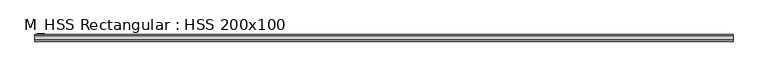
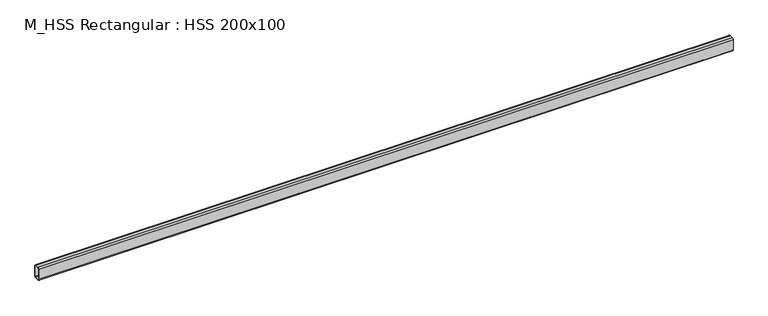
"""IFC4 building model written with IfcOpenShell, lengths in millimetres: beam geometry, M_HSS Rectangular : HSS 200x100."""

from ifc_helpers import new_model, si_unit, point, frame, frame_2d, origin, place, context, project, spatial, polyline, circle_curve, trimmed, segment, composite_curve, outline, extrude, source, transform, mapped, element, save


def m_hss_rectangular_hss_200x100_629e55c8(model_context):
    return source(origin(), model_context, "Body", "SweptSolid", [
        extrude(outline(composite_curve([segment(trimmed(circle_curve(frame_2d((-30.94, 80.94)), 19.06), [point((-50.0, 80.94))], [point((-30.94, 100.0))], False, "CARTESIAN"), True, "CONTINUOUS"), segment(polyline([(-30.94, 100.0), (30.94, 100.0)]), True, "CONTINUOUS"), segment(trimmed(circle_curve(frame_2d((30.94, 80.94)), 19.06), [point((30.94, 100.0))], [point((50.0, 80.94))], False, "CARTESIAN"), True, "CONTINUOUS"), segment(polyline([(50.0, 80.94), (50.0, -80.94)]), True, "CONTINUOUS"), segment(trimmed(circle_curve(frame_2d((30.94, -80.94)), 19.06), [point((50.0, -80.94))], [point((30.94, -100.0))], False, "CARTESIAN"), True, "CONTINUOUS"), segment(polyline([(30.94, -100.0), (-30.94, -100.0)]), True, "CONTINUOUS"), segment(trimmed(circle_curve(frame_2d((-30.94, -80.94)), 19.06), [point((-30.94, -100.0))], [point((-50.0, -80.94))], False, "CARTESIAN"), True, "CONTINUOUS"), segment(polyline([(-50.0, -80.94), (-50.0, 80.94)]), True, "CONTINUOUS")], self_intersect=False), holes=[composite_curve([segment(polyline([(30.94, 90.47), (-30.94, 90.47)]), True, "CONTINUOUS"), segment(trimmed(circle_curve(frame_2d((-30.94, 80.94)), 9.53), [point((-30.94, 90.47))], [point((-40.47, 80.94))], True, "CARTESIAN"), True, "CONTINUOUS"), segment(polyline([(-40.47, 80.94), (-40.47, -80.94)]), True, "CONTINUOUS"), segment(trimmed(circle_curve(frame_2d((-30.94, -80.94)), 9.53), [point((-40.47, -80.94))], [point((-30.94, -90.47))], True, "CARTESIAN"), True, "CONTINUOUS"), segment(polyline([(-30.94, -90.47), (30.94, -90.47)]), True, "CONTINUOUS"), segment(trimmed(circle_curve(frame_2d((30.94, -80.94)), 9.53), [point((30.94, -90.47))], [point((40.47, -80.94))], True, "CARTESIAN"), True, "CONTINUOUS"), segment(polyline([(40.47, -80.94), (40.47, 80.94)]), True, "CONTINUOUS"), segment(trimmed(circle_curve(frame_2d((30.94, 80.94)), 9.53), [point((40.47, 80.94))], [point((30.94, 90.47))], True, "CARTESIAN"), True, "CONTINUOUS")], self_intersect=False)]), frame((-5250.3, 0.0, 0.0), z_axis=(1.0, 0.0, 0.0), x_axis=(0.0, 1.0, 0.0)), (0.0, 0.0, 1.0), 10500.2),
    ])


if __name__ == "__main__":
    model = new_model("IFC4")
    model_context = context("Model", 3, world=origin())
    ifc_project = project(units=[si_unit("LENGTHUNIT", "METRE", prefix="MILLI")], contexts=[model_context])
    site = spatial("IfcSite", under=ifc_project)
    building = spatial("IfcBuilding", under=site)
    placement = place(None, origin())
    m_hss_rectangular_hss_200x100_shape = m_hss_rectangular_hss_200x100_629e55c8(model_context)
    element("IfcBeam", 1, ObjectType="M_HSS Rectangular : HSS 200x100", at=placement, inside=building, context=model_context, shape_type="MappedRepresentation", body=[
        mapped(m_hss_rectangular_hss_200x100_shape, transform((0.0, 0.0, 0.0), x_axis=(1.0, 0.0, 0.0), y_axis=(0.0, 1.0, 0.0), z_axis=(0.0, 0.0, 1.0))),
    ])
    save(model, "model.ifc")
